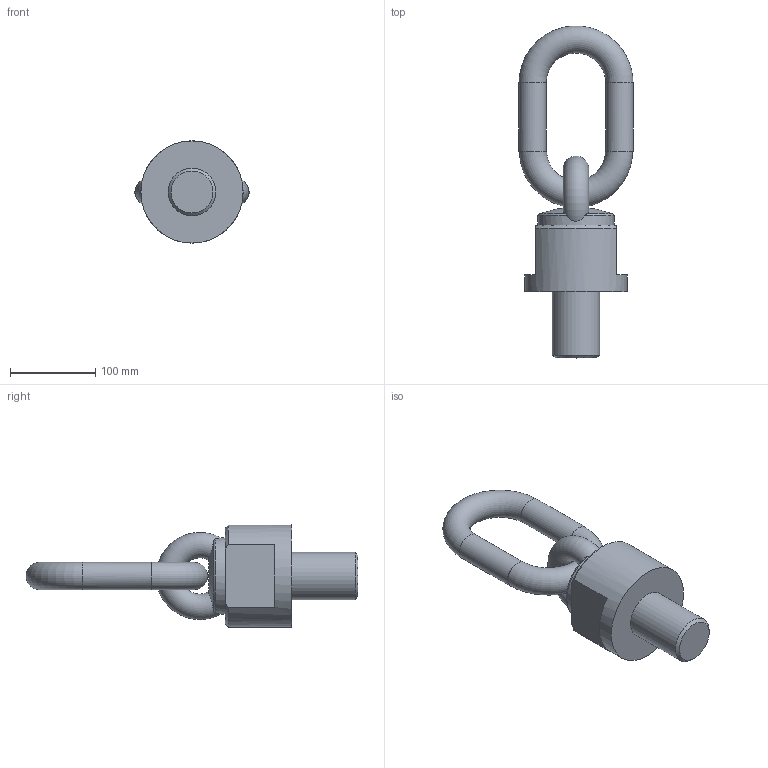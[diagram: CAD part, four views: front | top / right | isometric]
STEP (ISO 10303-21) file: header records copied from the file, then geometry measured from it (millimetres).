
FILE_DESCRIPTION( ( 'STEP AP203' ), '1' );
FILE_NAME( 'p:/temp/worker_5/temp/app_49_0201906261621584700731610e898ce_000000_00_00_000000/format_1/C8001505678.stp', '2019-06-26T14:21:59', ( '' ), ( '' ), ' ', 'PARTsolutions', ' ' );
FILE_SCHEMA( ( 'CONFIG_CONTROL_DESIGN' ) );
Length unit declared in the file: millimetre
Products named in the file (1): _C8001505678
Bounding box: 134 x 389.84 x 120 mm (x, y, z)
Volume: 1588518.2 mm3; surface area: 127602 mm2
Topology: 1 solids, 1 shells, 27 faces, 66 edges, 41 vertices
Faces by surface type: plane 12, torus 5, cylinder 5, cone 5
Full cylindrical faces by diameter (mm): 32 x2, 56 x1, 89.3 x1, 120 x1
Entity records: 1100 total; most frequent: CARTESIAN_POINT 490, DIRECTION 118, ORIENTED_EDGE 104, AXIS2_PLACEMENT_3D 55, EDGE_CURVE 52, EDGE_LOOP 40, VERTEX_POINT 37, FACE_OUTER_BOUND 35
